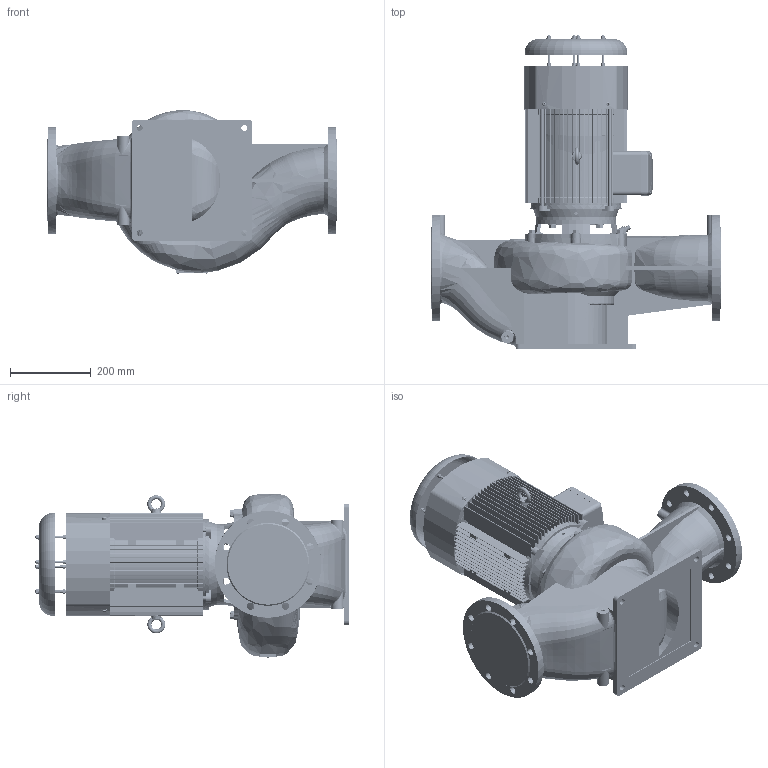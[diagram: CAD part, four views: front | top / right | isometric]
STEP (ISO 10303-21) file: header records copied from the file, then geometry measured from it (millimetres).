
FILE_DESCRIPTION (( 'STEP AP214' ), '1' );
FILE_NAME ('LLT150-6A-5.5.STEP', '2020-08-28T01:09:53', ( 'cnp' ), ( '' ), 'SwSTEP 2.0', 'SolidWorks 2018', '' );
FILE_SCHEMA (( 'AUTOMOTIVE_DESIGN' ));
Length unit declared in the file: millimetre
Products named in the file (29): YE3-132-IMV18 萇儂 滅迾欶; GB╱T 5783-2016[六角头螺栓 全螺纹M10×35]; LLT150掙芛; LLT150; 平垫圈10; LLT150-6A-5.5; GB╱T 5783-2016[六角头螺栓 全螺纹M10×35]_M10×35
Assembly tree (23 placements, depth 2):
  YE3-132-IMV18 萇儂 滅迾欶
  GB╱T 5783-2016[六角头螺栓 全螺纹M10×35]
  LLT150掙芛
  GB╱T 5783-2016[六角头螺栓 全螺纹M10×35]
  LLT150
Bounding box: 720 x 777.11 x 405.98 mm (x, y, z)
Volume: 34431156.7 mm3; surface area: 3805279.3 mm2
Topology: 31 solids, 174 shells, 9345 faces, 25249 edges, 16380 vertices
Faces by surface type: plane 5582, cone 1215, bspline 1177, cylinder 1061, torus 299, sphere 11
Full cylindrical faces by diameter (mm): 1.1 x1, 1.3 x1, 2 x13, 3 x7, 3.3 x6, 3.4 x4, 4 x51, 4.25 x4, 4.5 x8, 4.85 x4, 5 x11, 5.1 x4, 5.196 x4, 5.3 x10, 5.5 x2, 5.8 x2, 6 x33, 6.4 x16, 6.5 x4, 8 x13, 8.4 x6, 8.5 x11, 9 x17, 9.5 x4, 10 x23, 10.5 x10, 11 x3, 11.8 x2, 12 x26, 12.7 x2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
Entity records: 482370 total; most frequent: CARTESIAN_POINT 161433, ORIENTED_EDGE 48176, DIRECTION 39586, EDGE_CURVE 24130, VERTEX_POINT 15982, LINE 14570, VECTOR 14570, AXIS2_PLACEMENT_3D 12508
